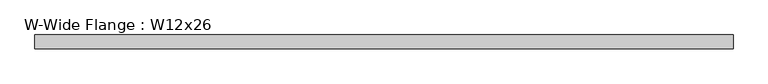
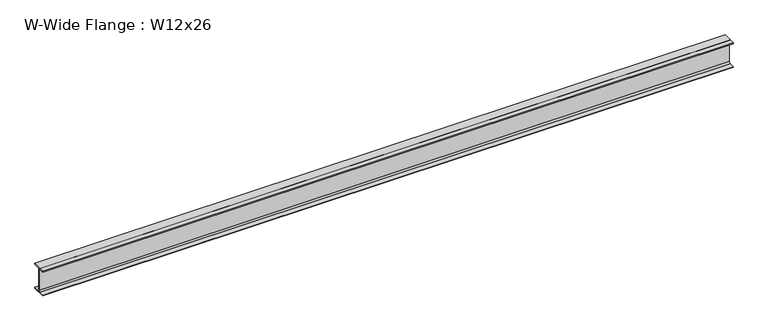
"""IFC4 building model written with IfcOpenShell, lengths in millimetres: beam geometry, W-Wide Flange : W12x26."""

from ifc_helpers import new_model, si_unit, point, frame, frame_2d, origin, place, context, project, spatial, polyline, circle_curve, trimmed, segment, composite_curve, outline, extrude, source, transform, mapped, element, save


def w_wide_flange_w12x26_7af0cc8f(model_context):
    return source(origin(), model_context, "Body", "SweptSolid", [
        extrude(outline(composite_curve([segment(polyline([(82.423, -145.288), (82.423, -154.94), (-82.423, -154.94), (-82.423, -145.288), (-20.2565, -145.288)]), True, "CONTINUOUS"), segment(trimmed(circle_curve(frame_2d((-20.2565, -127.9525)), 17.3355), [point((-20.2565, -145.288))], [point((-2.921, -127.9525))], True, "CARTESIAN"), True, "CONTINUOUS"), segment(polyline([(-2.921, -127.9525), (-2.921, 127.9525)]), True, "CONTINUOUS"), segment(trimmed(circle_curve(frame_2d((-20.2565, 127.9525)), 17.3355), [point((-2.921, 127.9525))], [point((-20.2565, 145.288))], True, "CARTESIAN"), True, "CONTINUOUS"), segment(polyline([(-20.2565, 145.288), (-82.423, 145.288), (-82.423, 154.94), (82.423, 154.94), (82.423, 145.288), (20.2565, 145.288)]), True, "CONTINUOUS"), segment(trimmed(circle_curve(frame_2d((20.2565, 127.9525)), 17.3355), [point((20.2565, 145.288))], [point((2.921, 127.9525))], True, "CARTESIAN"), True, "CONTINUOUS"), segment(polyline([(2.921, 127.9525), (2.921, -127.9525)]), True, "CONTINUOUS"), segment(trimmed(circle_curve(frame_2d((20.2565, -127.9525)), 17.3355), [point((2.921, -127.9525))], [point((20.2565, -145.288))], True, "CARTESIAN"), True, "CONTINUOUS"), segment(polyline([(20.2565, -145.288), (82.423, -145.288)]), True, "CONTINUOUS")], self_intersect=False)), frame((-4076.7, 0.0, 0.0), z_axis=(1.0, 0.0, 0.0), x_axis=(0.0, 1.0, 0.0)), (0.0, 0.0, 1.0), 8230.87),
    ])


if __name__ == "__main__":
    model = new_model("IFC4")
    model_context = context("Model", 3, world=origin())
    ifc_project = project(units=[si_unit("LENGTHUNIT", "METRE", prefix="MILLI")], contexts=[model_context])
    site = spatial("IfcSite", under=ifc_project)
    building = spatial("IfcBuilding", under=site)
    placement = place(None, origin())
    w_wide_flange_w12x26_shape = w_wide_flange_w12x26_7af0cc8f(model_context)
    element("IfcBeam", 1, ObjectType="W-Wide Flange : W12x26", at=placement, inside=building, context=model_context, shape_type="MappedRepresentation", body=[
        mapped(w_wide_flange_w12x26_shape, transform((0.0, 0.0, 0.0), x_axis=(1.0, 0.0, 0.0), y_axis=(0.0, 1.0, 0.0), z_axis=(0.0, 0.0, 1.0))),
    ])
    save(model, "model.ifc")
